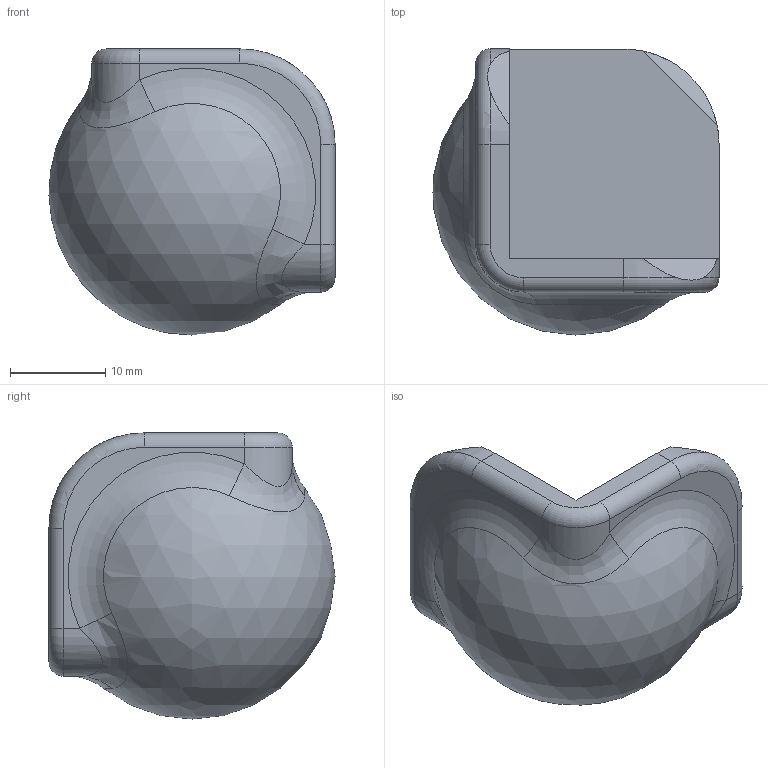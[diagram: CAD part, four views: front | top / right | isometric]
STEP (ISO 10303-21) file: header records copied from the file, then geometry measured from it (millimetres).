
FILE_DESCRIPTION(/* description */ (''),/* implementation_level */ '2;1');
FILE_NAME(/* name */ 'protectiveCorner v3.step',/* time_stamp */ '2022-12-31T14:35:29+01:00',/* author */ (''),/* organization */ (''),/* preprocessor_version */ 'ST-DEVELOPER v19.2',/* originating_system */ 'Autodesk Translation Framework v11.17.0.187',/* authorisation */ '');
FILE_SCHEMA (('AUTOMOTIVE_DESIGN { 1 0 10303 214 3 1 1 }'));
Length unit declared in the file: millimetre
Products named in the file (1): protectiveCorner
Bounding box: 30 x 30 x 30 mm (x, y, z)
Volume: 8076.1 mm3; surface area: 3692.6 mm2
Topology: 1 solids, 1 shells, 40 faces, 99 edges, 60 vertices
Faces by surface type: cylinder 15, plane 12, torus 9, bspline 3, sphere 1
Entity records: 1329 total; most frequent: CARTESIAN_POINT 346, DIRECTION 218, ORIENTED_EDGE 196, EDGE_CURVE 98, AXIS2_PLACEMENT_3D 91, VERTEX_POINT 60, CIRCLE 47, FACE_OUTER_BOUND 40
